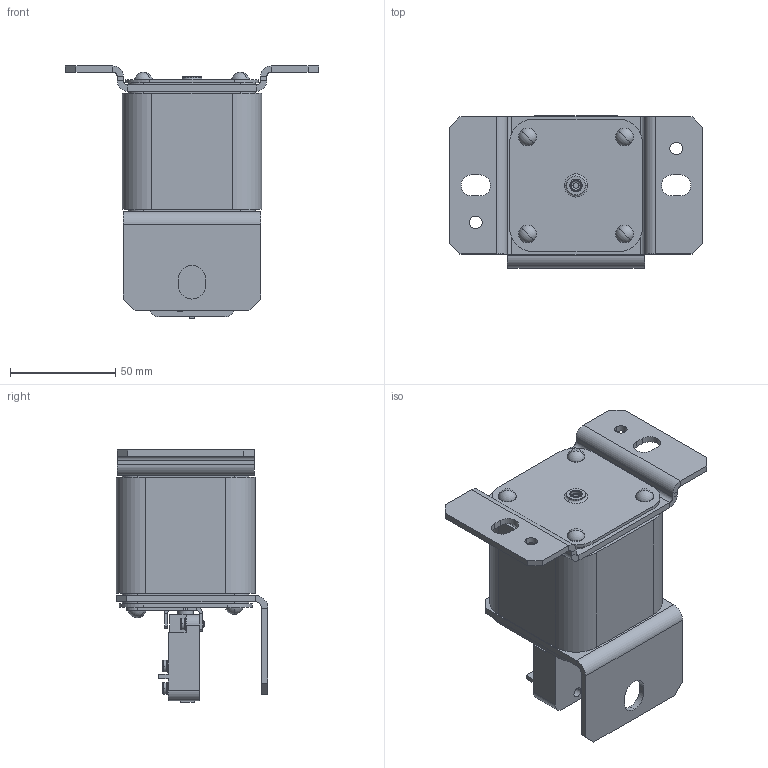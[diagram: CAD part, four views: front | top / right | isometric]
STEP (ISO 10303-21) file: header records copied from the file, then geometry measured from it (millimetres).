
FILE_DESCRIPTION (( 'STEP AP214' ), '1' );
FILE_NAME ('ﾏﾏ60ﾑ-40ﾃ2-710ﾀ-ﾓﾕﾋ3-ﾊﾝﾀﾇ.STEP', '2023-04-11T07:28:30', ( '' ), ( '' ), 'SwSTEP 2.0', 'SolidWorks 2018', '' );
FILE_SCHEMA (( 'AUTOMOTIVE_DESIGN' ));
Length unit declared in the file: millimetre
Products named in the file (1): ﾏﾏ60ﾑ-40ﾃ2-710ﾀ-ﾓﾕﾋ3-ﾊﾝﾀﾇ
Bounding box: 120 x 72 x 119.5 mm (x, y, z)
Volume: 315649 mm3; surface area: 104761.8 mm2
Topology: 36 solids, 36 shells, 672 faces, 1533 edges, 972 vertices
Faces by surface type: cylinder 311, plane 247, torus 76, cone 22, sphere 16
Entity records: 27094 total; most frequent: DIRECTION 3703, CARTESIAN_POINT 3178, ORIENTED_EDGE 3066, EDGE_CURVE 1533, AXIS2_PLACEMENT_3D 1497, VERTEX_POINT 972, EDGE_LOOP 837, CIRCLE 824
